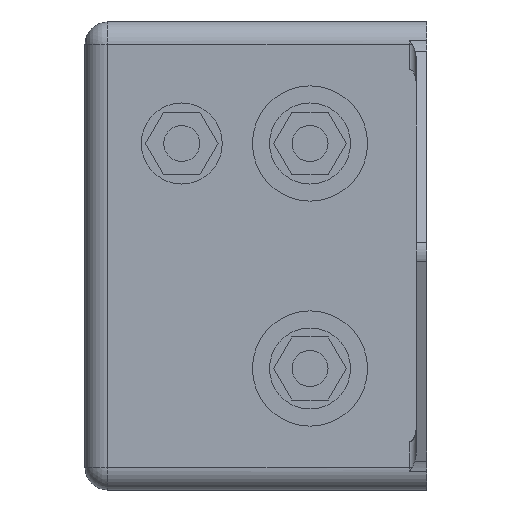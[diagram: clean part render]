
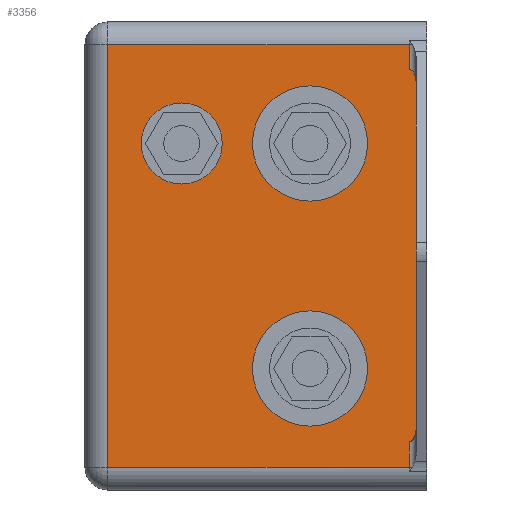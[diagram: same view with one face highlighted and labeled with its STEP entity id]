
A CAD part, left-side view. The second image highlights one B-rep face of the part: STEP entity #3356.
In plain terms, the highlighted planar face has unit normal (-1, 0, 0).
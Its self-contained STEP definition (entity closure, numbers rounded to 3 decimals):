
#1 = CARTESIAN_POINT ( 'NONE',  ( -31.5, 1.95, -20.627 ) ) ;
#100 = AXIS2_PLACEMENT_3D ( 'NONE', #1523, #1256, #2306 ) ;
#109 = VERTEX_POINT ( 'NONE', #2502 ) ;
#122 = LINE ( 'NONE', #2453, #1558 ) ;
#218 = ORIENTED_EDGE ( 'NONE', *, *, #2298, .T. ) ;
#229 = VERTEX_POINT ( 'NONE', #459 ) ;
#260 = DIRECTION ( 'NONE',  ( 0., 0., 1. ) ) ;
#266 = EDGE_CURVE ( 'NONE', #109, #2717, #2299, .T. ) ;
#271 = VERTEX_POINT ( 'NONE', #2266 ) ;
#320 = ORIENTED_EDGE ( 'NONE', *, *, #2813, .T. ) ;
#335 = CIRCLE ( 'NONE', #1507, 6.4 ) ;
#353 = CARTESIAN_POINT ( 'NONE',  ( -31.5, 1.2, -19.951 ) ) ;
#356 = CARTESIAN_POINT ( 'NONE',  ( -31.5, 13., -18.9 ) ) ;
#362 = VECTOR ( 'NONE', #260, 1000. ) ;
#365 = VERTEX_POINT ( 'NONE', #1594 ) ;
#415 = VECTOR ( 'NONE', #1483, 1000. ) ;
#428 = EDGE_CURVE ( 'NONE', #1443, #559, #1730, .T. ) ;
#447 = EDGE_CURVE ( 'NONE', #1515, #271, #1781, .T. ) ;
#459 = CARTESIAN_POINT ( 'NONE',  ( -31.5, 27.25, 10.5 ) ) ;
#482 = CARTESIAN_POINT ( 'NONE',  ( -31.5, 1.2, 19.139 ) ) ;
#505 = CARTESIAN_POINT ( 'NONE',  ( -31.5, 35.5, 23.5 ) ) ;
#537 = CARTESIAN_POINT ( 'NONE',  ( -31.5, 13., 12.5 ) ) ;
#559 = VERTEX_POINT ( 'NONE', #949 ) ;
#575 = CARTESIAN_POINT ( 'NONE',  ( -31.5, 1.95, 23.5 ) ) ;
#667 = CIRCLE ( 'NONE', #1696, 6.4 ) ;
#678 = CARTESIAN_POINT ( 'NONE',  ( -31.5, 1.2, -18.995 ) ) ;
#722 = EDGE_LOOP ( 'NONE', ( #994, #2759 ) ) ;
#755 = PLANE ( 'NONE',  #2058 ) ;
#780 = EDGE_CURVE ( 'NONE', #2916, #365, #335, .T. ) ;
#793 = CARTESIAN_POINT ( 'NONE',  ( -31.5, 1.2, 19.139 ) ) ;
#823 = CIRCLE ( 'NONE', #100, 6.4 ) ;
#826 = ORIENTED_EDGE ( 'NONE', *, *, #1853, .T. ) ;
#833 = CARTESIAN_POINT ( 'NONE',  ( -31.5, 35.5, -23.5 ) ) ;
#856 = AXIS2_PLACEMENT_3D ( 'NONE', #2527, #1188, #1641 ) ;
#875 = DIRECTION ( 'NONE',  ( 0., 0., -1. ) ) ;
#879 = VECTOR ( 'NONE', #2672, 1000. ) ;
#907 = CARTESIAN_POINT ( 'NONE',  ( -31.5, 1.95, 20.712 ) ) ;
#938 = DIRECTION ( 'NONE',  ( 1., 0., 0. ) ) ;
#943 = EDGE_CURVE ( 'NONE', #229, #1103, #2564, .T. ) ;
#949 = CARTESIAN_POINT ( 'NONE',  ( -31.5, 13., 18.9 ) ) ;
#994 = ORIENTED_EDGE ( 'NONE', *, *, #3173, .T. ) ;
#1008 = FACE_BOUND ( 'NONE', #722, .T. ) ;
#1050 = DIRECTION ( 'NONE',  ( 1., 0., 0. ) ) ;
#1086 = ORIENTED_EDGE ( 'NONE', *, *, #266, .T. ) ;
#1103 = VERTEX_POINT ( 'NONE', #2509 ) ;
#1127 = DIRECTION ( 'NONE',  ( 1., 0., 0. ) ) ;
#1188 = DIRECTION ( 'NONE',  ( 1., 0., 0. ) ) ;
#1221 = DIRECTION ( 'NONE',  ( 0., 0., -1. ) ) ;
#1244 = EDGE_CURVE ( 'NONE', #365, #2916, #823, .T. ) ;
#1250 = EDGE_CURVE ( 'NONE', #271, #2139, #2846, .T. ) ;
#1256 = DIRECTION ( 'NONE',  ( 1., 0., 0. ) ) ;
#1267 = EDGE_CURVE ( 'NONE', #559, #1443, #667, .T. ) ;
#1286 = FACE_OUTER_BOUND ( 'NONE', #2576, .T. ) ;
#1287 = CARTESIAN_POINT ( 'NONE',  ( -31.5, 35.5, -23.5 ) ) ;
#1332 = EDGE_CURVE ( 'NONE', #2139, #2820, #2523, .T. ) ;
#1356 = DIRECTION ( 'NONE',  ( 0., 0., -1. ) ) ;
#1365 = LINE ( 'NONE', #833, #1500 ) ;
#1375 = CARTESIAN_POINT ( 'NONE',  ( -31.5, 1.2, 20.061 ) ) ;
#1415 = VERTEX_POINT ( 'NONE', #575 ) ;
#1429 = DIRECTION ( 'NONE',  ( 0., 1., 0. ) ) ;
#1443 = VERTEX_POINT ( 'NONE', #2677 ) ;
#1450 = DIRECTION ( 'NONE',  ( 1., 0., 0. ) ) ;
#1483 = DIRECTION ( 'NONE',  ( 0., -1., 0. ) ) ;
#1500 = VECTOR ( 'NONE', #3214, 1000. ) ;
#1507 = AXIS2_PLACEMENT_3D ( 'NONE', #2389, #2668, #1356 ) ;
#1515 = VERTEX_POINT ( 'NONE', #1 ) ;
#1523 = CARTESIAN_POINT ( 'NONE',  ( -31.5, 13., -12.5 ) ) ;
#1537 = CARTESIAN_POINT ( 'NONE',  ( -31.5, 1.2, 9.591 ) ) ;
#1558 = VECTOR ( 'NONE', #2943, 1000. ) ;
#1562 = DIRECTION ( 'NONE',  ( 0., 1., 0. ) ) ;
#1572 = CARTESIAN_POINT ( 'NONE',  ( -31.5, 1.511, 20.712 ) ) ;
#1594 = CARTESIAN_POINT ( 'NONE',  ( -31.5, 13., -6.1 ) ) ;
#1627 = DIRECTION ( 'NONE',  ( 0., 0., -1. ) ) ;
#1641 = DIRECTION ( 'NONE',  ( 0., 0., -1. ) ) ;
#1695 = EDGE_LOOP ( 'NONE', ( #2611, #1854 ) ) ;
#1696 = AXIS2_PLACEMENT_3D ( 'NONE', #537, #1050, #1627 ) ;
#1697 = CARTESIAN_POINT ( 'NONE',  ( -31.5, 1.95, -20.627 ) ) ;
#1730 = CIRCLE ( 'NONE', #856, 6.4 ) ;
#1758 = LINE ( 'NONE', #505, #2828 ) ;
#1781 =( BOUNDED_CURVE ( )  B_SPLINE_CURVE ( 3, ( #1697, #2777, #353, #678 ),
 .UNSPECIFIED., .F., .T. ) 
 B_SPLINE_CURVE_WITH_KNOTS ( ( 4, 4 ),
 ( 0., 1.571 ),
 .UNSPECIFIED. ) 
 CURVE ( )  GEOMETRIC_REPRESENTATION_ITEM ( )  RATIONAL_B_SPLINE_CURVE ( ( 1., 0.805, 0.805, 1. ) ) 
 REPRESENTATION_ITEM ( '' )  );
#1853 = EDGE_CURVE ( 'NONE', #2820, #1415, #2416, .T. ) ;
#1854 = ORIENTED_EDGE ( 'NONE', *, *, #1244, .T. ) ;
#1886 = CARTESIAN_POINT ( 'NONE',  ( -31.5, 1.95, 20.712 ) ) ;
#1923 = ORIENTED_EDGE ( 'NONE', *, *, #447, .T. ) ;
#1955 = CARTESIAN_POINT ( 'NONE',  ( -31.5, 27.25, 12.5 ) ) ;
#2058 = AXIS2_PLACEMENT_3D ( 'NONE', #2333, #1450, #1429 ) ;
#2062 = CIRCLE ( 'NONE', #3048, 2. ) ;
#2109 = ORIENTED_EDGE ( 'NONE', *, *, #1332, .T. ) ;
#2119 = AXIS2_PLACEMENT_3D ( 'NONE', #1955, #1127, #875 ) ;
#2136 = ORIENTED_EDGE ( 'NONE', *, *, #1250, .T. ) ;
#2139 = VERTEX_POINT ( 'NONE', #482 ) ;
#2266 = CARTESIAN_POINT ( 'NONE',  ( -31.5, 1.2, -18.995 ) ) ;
#2298 = EDGE_CURVE ( 'NONE', #1415, #2637, #1758, .T. ) ;
#2299 = LINE ( 'NONE', #1287, #415 ) ;
#2306 = DIRECTION ( 'NONE',  ( 0., 0., -1. ) ) ;
#2313 = FACE_BOUND ( 'NONE', #3193, .T. ) ;
#2333 = CARTESIAN_POINT ( 'NONE',  ( -31.5, 38., 26. ) ) ;
#2389 = CARTESIAN_POINT ( 'NONE',  ( -31.5, 13., -12.5 ) ) ;
#2405 = CARTESIAN_POINT ( 'NONE',  ( -31.5, 1.95, -23.5 ) ) ;
#2416 = LINE ( 'NONE', #2628, #362 ) ;
#2453 = CARTESIAN_POINT ( 'NONE',  ( -31.5, 1.95, -23.5 ) ) ;
#2502 = CARTESIAN_POINT ( 'NONE',  ( -31.5, 35.5, -23.5 ) ) ;
#2509 = CARTESIAN_POINT ( 'NONE',  ( -31.5, 27.25, 14.5 ) ) ;
#2523 =( BOUNDED_CURVE ( )  B_SPLINE_CURVE ( 3, ( #793, #1375, #1572, #1886 ),
 .UNSPECIFIED., .F., .T. ) 
 B_SPLINE_CURVE_WITH_KNOTS ( ( 4, 4 ),
 ( 4.712, 6.283 ),
 .UNSPECIFIED. ) 
 CURVE ( )  GEOMETRIC_REPRESENTATION_ITEM ( )  RATIONAL_B_SPLINE_CURVE ( ( 1., 0.805, 0.805, 1. ) ) 
 REPRESENTATION_ITEM ( '' )  );
#2527 = CARTESIAN_POINT ( 'NONE',  ( -31.5, 13., 12.5 ) ) ;
#2532 = CARTESIAN_POINT ( 'NONE',  ( -31.5, 27.25, 12.5 ) ) ;
#2564 = CIRCLE ( 'NONE', #2119, 2. ) ;
#2576 = EDGE_LOOP ( 'NONE', ( #826, #218, #3233, #1086, #320, #1923, #2136, #2109 ) ) ;
#2600 = FACE_BOUND ( 'NONE', #1695, .T. ) ;
#2611 = ORIENTED_EDGE ( 'NONE', *, *, #780, .T. ) ;
#2628 = CARTESIAN_POINT ( 'NONE',  ( -31.5, 1.95, -23.5 ) ) ;
#2637 = VERTEX_POINT ( 'NONE', #3122 ) ;
#2668 = DIRECTION ( 'NONE',  ( 1., 0., 0. ) ) ;
#2672 = DIRECTION ( 'NONE',  ( 0., 0., 1. ) ) ;
#2677 = CARTESIAN_POINT ( 'NONE',  ( -31.5, 13., 6.1 ) ) ;
#2717 = VERTEX_POINT ( 'NONE', #2405 ) ;
#2759 = ORIENTED_EDGE ( 'NONE', *, *, #943, .T. ) ;
#2773 = EDGE_CURVE ( 'NONE', #2637, #109, #1365, .T. ) ;
#2777 = CARTESIAN_POINT ( 'NONE',  ( -31.5, 1.511, -20.627 ) ) ;
#2813 = EDGE_CURVE ( 'NONE', #2717, #1515, #122, .T. ) ;
#2820 = VERTEX_POINT ( 'NONE', #907 ) ;
#2828 = VECTOR ( 'NONE', #1562, 1000. ) ;
#2846 = LINE ( 'NONE', #1537, #879 ) ;
#2916 = VERTEX_POINT ( 'NONE', #356 ) ;
#2926 = ORIENTED_EDGE ( 'NONE', *, *, #428, .T. ) ;
#2943 = DIRECTION ( 'NONE',  ( 0., 0., 1. ) ) ;
#3010 = ORIENTED_EDGE ( 'NONE', *, *, #1267, .T. ) ;
#3048 = AXIS2_PLACEMENT_3D ( 'NONE', #2532, #938, #1221 ) ;
#3122 = CARTESIAN_POINT ( 'NONE',  ( -31.5, 35.5, 23.5 ) ) ;
#3173 = EDGE_CURVE ( 'NONE', #1103, #229, #2062, .T. ) ;
#3193 = EDGE_LOOP ( 'NONE', ( #2926, #3010 ) ) ;
#3214 = DIRECTION ( 'NONE',  ( 0., 0., -1. ) ) ;
#3233 = ORIENTED_EDGE ( 'NONE', *, *, #2773, .T. ) ;
#3356 = ADVANCED_FACE ( 'NONE', ( #1008, #2600, #2313, #1286 ), #755, .F. ) ;
